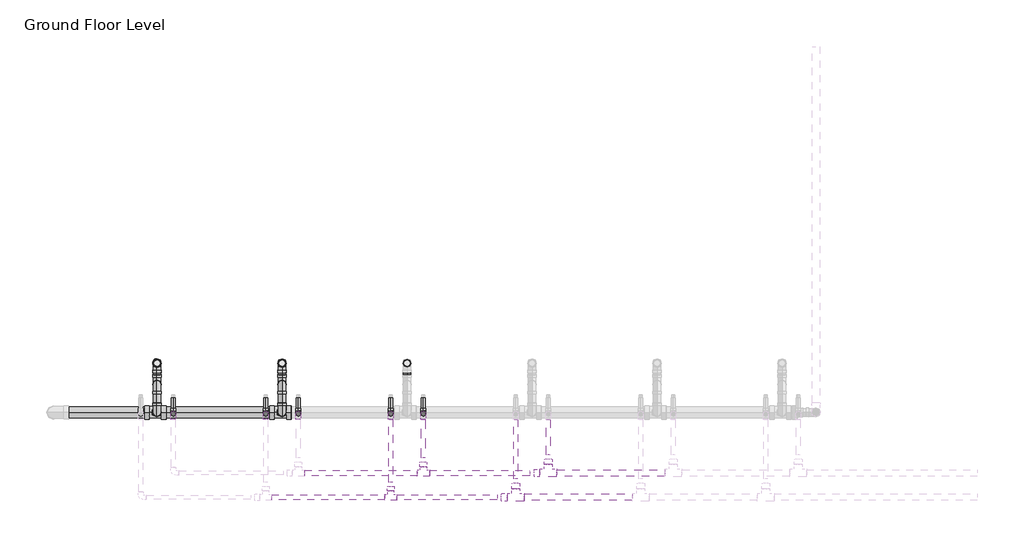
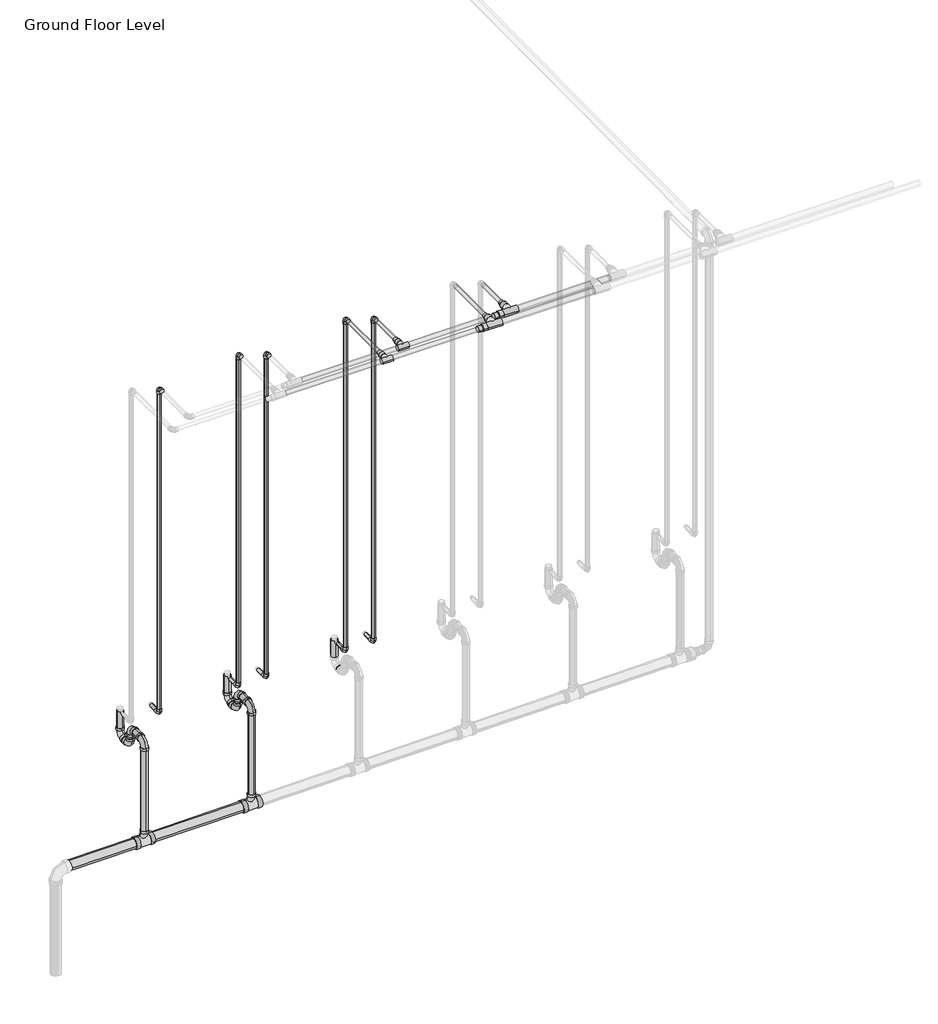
# One storey, part 39 of 68: 34 pipe segments, 30 pipe fittings.
"""IFC4 building model written with IfcOpenShell, lengths in millimetres."""

from ifc_helpers import new_model, si_unit, point, frame, frame_2d, origin, place, context, project, spatial, circle_curve, trimmed, segment, composite_curve, outline, extrude, transform, mapped, element, save
from components import m_bend_pvc_sch_40_dwv_standard_1e7bdcc1, m_bend_pvc_sch_40_dwv_standard_776e50c4, m_bend_pvc_sch_40_dwv_standard_a69ec96e, m_tee_reducing_sanitary_pvc_sch_40_dwv_standard_21d2848c, standard_b266ab3f, standard_72b35c3b, standard_08ff6011, standard_d0d0b892, standard_83629b21, standard_e954f56a

model = new_model("IFC4")

# Units and contexts
model_context = context("Model", 3, world=origin())
ifc_project = project(units=[si_unit("LENGTHUNIT", "METRE", prefix="MILLI")], contexts=[model_context])

# Site, building, storey
site = spatial("IfcSite", under=ifc_project)
building = spatial("IfcBuilding", under=site)
storey = spatial("IfcBuildingStorey", under=building, Name="Ground Floor Level", Elevation=900.0)

# Pipe fittings
placement = place(None, origin())
m_bend_pvc_sch_40_dwv_standard_shape = m_bend_pvc_sch_40_dwv_standard_1e7bdcc1(model_context)
element("IfcPipeFitting", 1, ObjectType="M_Bend - PVC - Sch 40 - DWV : Standard", at=placement, inside=storey, context=model_context, shape_type="MappedRepresentation", body=[
    mapped(m_bend_pvc_sch_40_dwv_standard_shape, transform((-20261.2502, 9458.7835646, 1360.0), x_axis=(0.0, 0.9999500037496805, 0.009999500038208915), y_axis=(0.0, -0.009999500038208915, 0.9999500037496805), z_axis=(1.0, 0.0, 0.0))),
])
element("IfcPipeFitting", 2, ObjectType="M_Bend - PVC - Sch 40 - DWV : Standard", at=placement, inside=storey, context=model_context, shape_type="MappedRepresentation", body=[
    mapped(m_bend_pvc_sch_40_dwv_standard_shape, transform((-20261.2502, 9143.7835646, 1498.2), x_axis=(0.0, -0.9999500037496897, -0.00999950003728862), y_axis=(0.0, 0.00999950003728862, -0.9999500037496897), z_axis=(1.0, 0.0, 0.0))),
])
element("IfcPipeFitting", 3, ObjectType="M_Bend - PVC - Sch 40 - DWV : Standard", at=placement, inside=storey, context=model_context, shape_type="MappedRepresentation", body=[
    mapped(m_bend_pvc_sch_40_dwv_standard_shape, transform((-21061.7062458, 9143.7835645, 1498.2000033), x_axis=(0.0, -0.9999500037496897, -0.00999950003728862), y_axis=(0.0, 0.00999950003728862, -0.9999500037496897), z_axis=(1.0, 0.0, 0.0))),
])
m_bend_pvc_sch_40_dwv_standard_2_shape = m_bend_pvc_sch_40_dwv_standard_776e50c4(model_context)
element("IfcPipeFitting", 4, ObjectType="M_Bend - PVC - Sch 40 - DWV : Standard", at=placement, inside=storey, context=model_context, shape_type="MappedRepresentation", body=[
    mapped(m_bend_pvc_sch_40_dwv_standard_2_shape, transform((-20261.2502, 9323.7835646, 1358.65), x_axis=(0.0, -0.9999500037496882, -0.009999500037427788), y_axis=(0.0, -0.009999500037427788, 0.9999500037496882), z_axis=(-1.0, 0.0, 0.0))),
])
element("IfcPipeFitting", 5, ObjectType="M_Bend - PVC - Sch 40 - DWV : Standard", at=placement, inside=storey, context=model_context, shape_type="MappedRepresentation", body=[
    mapped(m_bend_pvc_sch_40_dwv_standard_2_shape, transform((-20261.2502, 9323.7835646, 1500.0), x_axis=(0.0, 0.0, 1.0), y_axis=(0.0, -1.0, 0.0), z_axis=(1.0, 0.0, 0.0))),
])
element("IfcPipeFitting", 6, ObjectType="M_Bend - PVC - Sch 40 - DWV : Standard", at=placement, inside=storey, context=model_context, shape_type="MappedRepresentation", body=[
    mapped(m_bend_pvc_sch_40_dwv_standard_2_shape, transform((-21061.7062458, 9323.7832388, 1358.6825726), x_axis=(0.0, -0.9999500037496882, -0.009999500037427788), y_axis=(0.0, -0.009999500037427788, 0.9999500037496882), z_axis=(-1.0, 0.0, 0.0))),
])
element("IfcPipeFitting", 7, ObjectType="M_Bend - PVC - Sch 40 - DWV : Standard", at=placement, inside=storey, context=model_context, shape_type="MappedRepresentation", body=[
    mapped(m_bend_pvc_sch_40_dwv_standard_2_shape, transform((-21061.7062458, 9323.7832388, 1500.0), x_axis=(0.0, 0.0, 1.0), y_axis=(0.0, -1.0, 0.0), z_axis=(1.0, 0.0, 0.0))),
])
m_bend_pvc_sch_40_dwv_standard_3_shape = m_bend_pvc_sch_40_dwv_standard_a69ec96e(model_context)
element("IfcPipeFitting", 8, ObjectType="M_Bend - PVC - Sch 40 - DWV : Standard", at=placement, inside=storey, context=model_context, shape_type="MappedRepresentation", body=[
    mapped(m_bend_pvc_sch_40_dwv_standard_3_shape, transform((-21061.7062458, 9458.7835646, 1360.0325758), x_axis=(0.0, 0.999950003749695, 0.009999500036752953), y_axis=(0.007367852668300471, -0.009999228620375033, 0.999922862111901), z_axis=(0.999972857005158, 7.36748430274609e-05, -0.007367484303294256))),
])
m_tee_reducing_sanitary_pvc_sch_40_dwv_standard_shape = m_tee_reducing_sanitary_pvc_sch_40_dwv_standard_21d2848c(model_context)
element("IfcPipeFitting", 9, ObjectType="M_Tee Reducing Sanitary - PVC - Sch 40 - DWV : Standard", at=placement, inside=storey, context=model_context, shape_type="MappedRepresentation", body=[
    mapped(m_tee_reducing_sanitary_pvc_sch_40_dwv_standard_shape, transform((-20261.2502, 9143.7835646, 727.2441999), x_axis=(0.9999500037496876, 0.0, 0.009999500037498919), y_axis=(0.009999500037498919, 0.0, -0.9999500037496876), z_axis=(0.0, 1.0, 0.0))),
])
element("IfcPipeFitting", 10, ObjectType="M_Tee Reducing Sanitary - PVC - Sch 40 - DWV : Standard", at=placement, inside=storey, context=model_context, shape_type="MappedRepresentation", body=[
    mapped(m_tee_reducing_sanitary_pvc_sch_40_dwv_standard_shape, transform((-21061.7062458, 9143.7835645, 719.2500298), x_axis=(0.9999500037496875, 0.0, 0.009999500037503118), y_axis=(0.009999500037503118, 0.0, -0.9999500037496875), z_axis=(0.0, 1.0, 0.0))),
])
standard_shape = standard_b266ab3f(model_context)
element("IfcPipeFitting", 11, ObjectType="M_Elbow - CPVC - Sch 40 : Standard", at=placement, inside=storey, context=model_context, shape_type="MappedRepresentation", body=[
    mapped(standard_shape, transform((-20956.9352794, 9135.2153534, 1690.0), x_axis=(0.0, -1.0, 0.0), y_axis=(0.0, 0.0, 1.0), z_axis=(-1.0, 0.0, 0.0))),
])
element("IfcPipeFitting", 12, ObjectType="M_Elbow - CPVC - Sch 40 : Standard", at=placement, inside=storey, context=model_context, shape_type="MappedRepresentation", body=[
    mapped(standard_shape, transform((-20956.9352794, 9135.2153534, 4250.0), x_axis=(0.0, 0.0, 1.0), y_axis=(0.0, -1.0, 0.0), z_axis=(1.0, 0.0, 0.0))),
])
element("IfcPipeFitting", 13, ObjectType="M_Elbow - CPVC - Sch 40 : Standard", at=placement, inside=storey, context=model_context, shape_type="MappedRepresentation", body=[
    mapped(standard_shape, transform((-20156.9352794, 9135.2153534, 4250.0), x_axis=(0.0, 0.0, 1.0), y_axis=(0.0, -1.0, 0.0), z_axis=(1.0, 0.0, 0.0))),
])
element("IfcPipeFitting", 14, ObjectType="M_Elbow - CPVC - Sch 40 : Standard", at=placement, inside=storey, context=model_context, shape_type="MappedRepresentation", body=[
    mapped(standard_shape, transform((-19356.9352794, 9135.2153534, 4250.0), x_axis=(0.0, 0.0, 1.0), y_axis=(0.0, -1.0, 0.0), z_axis=(1.0, 0.0, 0.0))),
])
element("IfcPipeFitting", 15, ObjectType="M_Elbow - CPVC - Sch 40 : Standard", at=placement, inside=storey, context=model_context, shape_type="MappedRepresentation", body=[
    mapped(standard_shape, transform((-20365.5651206, 9135.2153534, 1690.0), x_axis=(0.0, 0.0, -1.0), y_axis=(0.0, 1.0, 0.0), z_axis=(1.0, 0.0, 0.0))),
])
element("IfcPipeFitting", 16, ObjectType="M_Elbow - CPVC - Sch 40 : Standard", at=placement, inside=storey, context=model_context, shape_type="MappedRepresentation", body=[
    mapped(standard_shape, transform((-20156.9352794, 9135.2153534, 1690.0), x_axis=(0.0, 0.0, -1.0), y_axis=(0.0, 1.0, 0.0), z_axis=(1.0, 0.0, 0.0))),
])
element("IfcPipeFitting", 17, ObjectType="M_Elbow - CPVC - Sch 40 : Standard", at=placement, inside=storey, context=model_context, shape_type="MappedRepresentation", body=[
    mapped(standard_shape, transform((-19565.5651206, 9135.2153534, 1690.0), x_axis=(0.0, 0.0, -1.0), y_axis=(0.0, 1.0, 0.0), z_axis=(1.0, 0.0, 0.0))),
])
element("IfcPipeFitting", 18, ObjectType="M_Elbow - CPVC - Sch 40 : Standard", at=placement, inside=storey, context=model_context, shape_type="MappedRepresentation", body=[
    mapped(standard_shape, transform((-19356.9352794, 9135.2153534, 1690.0), x_axis=(0.0, 0.0, -1.0), y_axis=(0.0, 1.0, 0.0), z_axis=(1.0, 0.0, 0.0))),
])
element("IfcPipeFitting", 19, ObjectType="M_Elbow - CPVC - Sch 40 : Standard", at=placement, inside=storey, context=model_context, shape_type="MappedRepresentation", body=[
    mapped(standard_shape, transform((-19565.5651206, 9135.2153534, 4315.0), x_axis=(0.0, 0.0, 1.0), y_axis=(0.0, -1.0, 0.0), z_axis=(1.0, 0.0, 0.0))),
])
element("IfcPipeFitting", 20, ObjectType="M_Elbow - CPVC - Sch 40 : Standard", at=placement, inside=storey, context=model_context, shape_type="MappedRepresentation", body=[
    mapped(standard_shape, transform((-20365.5651206, 9135.2153534, 4315.0), x_axis=(0.0, 0.0, 1.0), y_axis=(0.0, -1.0, 0.0), z_axis=(1.0, 0.0, 0.0))),
])
standard_2_shape = standard_72b35c3b(model_context)
element("IfcPipeFitting", 21, ObjectType="M_Tee - CPVC - Sch 40 : Standard", at=placement, inside=storey, context=model_context, shape_type="MappedRepresentation", body=[
    mapped(standard_2_shape, transform((-19565.5651206, 8599.9071734, 4315.0), x_axis=(1.0, 0.0, 0.0), y_axis=(0.0, -1.0, 0.0), z_axis=(0.0, 0.0, -1.0))),
])
element("IfcPipeFitting", 22, ObjectType="M_Tee - CPVC - Sch 40 : Standard", at=placement, inside=storey, context=model_context, shape_type="MappedRepresentation", body=[
    mapped(standard_2_shape, transform((-19356.9352794, 8755.2153534, 4250.0), x_axis=(-1.0, 0.0, 0.0), y_axis=(0.0, -1.0, 0.0), z_axis=(0.0, 0.0, 1.0))),
])
standard_3_shape = standard_08ff6011(model_context)
element("IfcPipeFitting", 23, ObjectType="M_Tee - CPVC - Sch 40 : Standard", at=placement, inside=storey, context=model_context, shape_type="MappedRepresentation", body=[
    mapped(standard_3_shape, transform((-18765.4222086, 8599.9071734, 4315.0), x_axis=(1.0, 0.0, 0.0), y_axis=(0.0, -1.0, 0.0), z_axis=(0.0, 0.0, -1.0))),
])
element("IfcPipeFitting", 24, ObjectType="M_Tee - CPVC - Sch 40 : Standard", at=placement, inside=storey, context=model_context, shape_type="MappedRepresentation", body=[
    mapped(standard_3_shape, transform((-18556.7923674, 8755.2153534, 4250.0), x_axis=(-1.0, 0.0, 0.0), y_axis=(0.0, -1.0, 0.0), z_axis=(0.0, 0.0, 1.0))),
])
standard_4_shape = standard_d0d0b892(model_context)
element("IfcPipeFitting", 25, ObjectType="M_Coupling Reducing - CPVC - Sch 40 : Standard", at=placement, inside=storey, context=model_context, shape_type="MappedRepresentation", body=[
    mapped(standard_4_shape, transform((-18819.3972086, 8599.9071734, 4315.0), x_axis=(-1.0, 0.0, 0.0), y_axis=(0.0, -1.0, 0.0), z_axis=(0.0, 0.0, 1.0))),
])
element("IfcPipeFitting", 26, ObjectType="M_Coupling Reducing - CPVC - Sch 40 : Standard", at=placement, inside=storey, context=model_context, shape_type="MappedRepresentation", body=[
    mapped(standard_4_shape, transform((-18610.7673674, 8755.2153534, 4250.0), x_axis=(-1.0, 0.0, 0.0), y_axis=(0.0, -1.0, 0.0), z_axis=(0.0, 0.0, 1.0))),
])
standard_5_shape = standard_83629b21(model_context)
element("IfcPipeFitting", 27, ObjectType="M_Coupling Reducing - CPVC - Sch 40 : Standard", at=placement, inside=storey, context=model_context, shape_type="MappedRepresentation", body=[
    mapped(standard_5_shape, transform((-18765.4222086, 8653.8821734, 4315.0), x_axis=(0.0, 1.0, 0.0), y_axis=(-1.0, 0.0, 0.0), z_axis=(0.0, 0.0, 1.0))),
])
element("IfcPipeFitting", 28, ObjectType="M_Coupling Reducing - CPVC - Sch 40 : Standard", at=placement, inside=storey, context=model_context, shape_type="MappedRepresentation", body=[
    mapped(standard_5_shape, transform((-18556.7923674, 8809.1903534, 4250.0), x_axis=(0.0, 1.0, 0.0), y_axis=(-1.0, 0.0, 0.0), z_axis=(0.0, 0.0, 1.0))),
])
standard_6_shape = standard_e954f56a(model_context)
element("IfcPipeFitting", 29, ObjectType="M_Coupling Reducing - CPVC - Sch 40 : Standard", at=placement, inside=storey, context=model_context, shape_type="MappedRepresentation", body=[
    mapped(standard_6_shape, transform((-19565.5651206, 8639.6073734, 4315.0), x_axis=(0.0, 1.0, 0.0), y_axis=(-1.0, 0.0, 0.0), z_axis=(0.0, 0.0, 1.0))),
])
element("IfcPipeFitting", 30, ObjectType="M_Coupling Reducing - CPVC - Sch 40 : Standard", at=placement, inside=storey, context=model_context, shape_type="MappedRepresentation", body=[
    mapped(standard_6_shape, transform((-19356.9352794, 8794.9155534, 4250.0), x_axis=(0.0, 1.0, 0.0), y_axis=(-1.0, 0.0, 0.0), z_axis=(0.0, 0.0, 1.0))),
])

# Pipe segments
element("IfcPipeSegment", 31, ObjectType="CPVC", at=placement, inside=storey, context=model_context, shape_type="SweptSolid", body=[
    extrude(outline(composite_curve([segment(trimmed(circle_curve(frame_2d((1690.0, -20956.9352794)), 13.335), [point((1690.0, -20970.2702794))], [point((1676.665, -20956.9352794))], False, "CARTESIAN"), True, "CONTINUOUS"), segment(trimmed(circle_curve(frame_2d((1690.0, -20956.9352794)), 13.335), [point((1676.665, -20956.9352794))], [point((1690.0, -20943.6002794))], False, "CARTESIAN"), True, "CONTINUOUS"), segment(trimmed(circle_curve(frame_2d((1690.0, -20956.9352794)), 13.335), [point((1690.0, -20943.6002794))], [point((1703.335, -20956.9352794))], False, "CARTESIAN"), True, "CONTINUOUS"), segment(trimmed(circle_curve(frame_2d((1690.0, -20956.9352794)), 13.335), [point((1703.335, -20956.9352794))], [point((1690.0, -20970.2702794))], False, "CARTESIAN"), True, "CONTINUOUS")], self_intersect=False)), frame((0.0, 9170.5404034, 0.0), z_axis=(0.0, 1.0, 0.0), x_axis=(0.0, 0.0, 1.0)), (0.0, 0.0, 1.0), 64.67495),
])
element("IfcPipeSegment", 32, ObjectType="CPVC", at=placement, inside=storey, context=model_context, shape_type="SweptSolid", body=[
    extrude(outline(composite_curve([segment(trimmed(circle_curve(frame_2d((-20956.9352794, 9135.2153534)), 13.335), [point((-20970.2702794, 9135.2153534))], [point((-20956.9352794, 9148.5503534))], False, "CARTESIAN"), True, "CONTINUOUS"), segment(trimmed(circle_curve(frame_2d((-20956.9352794, 9135.2153534)), 13.335), [point((-20956.9352794, 9148.5503534))], [point((-20943.6002794, 9135.2153534))], False, "CARTESIAN"), True, "CONTINUOUS"), segment(trimmed(circle_curve(frame_2d((-20956.9352794, 9135.2153534)), 13.335), [point((-20943.6002794, 9135.2153534))], [point((-20956.9352794, 9121.8803534))], False, "CARTESIAN"), True, "CONTINUOUS"), segment(trimmed(circle_curve(frame_2d((-20956.9352794, 9135.2153534)), 13.335), [point((-20956.9352794, 9121.8803534))], [point((-20970.2702794, 9135.2153534))], False, "CARTESIAN"), True, "CONTINUOUS")], self_intersect=False)), frame((0.0, 0.0, 1725.32505), z_axis=(0.0, 0.0, 1.0), x_axis=(1.0, 0.0, 0.0)), (0.0, 0.0, 1.0), 2489.3499),
])
element("IfcPipeSegment", 33, ObjectType="CPVC", at=placement, inside=storey, context=model_context, shape_type="SweptSolid", body=[
    extrude(outline(composite_curve([segment(trimmed(circle_curve(frame_2d((0.0, 13.335)), 13.335), [point((0.0, 26.67))], [point((13.335, 13.335))], False, "CARTESIAN"), True, "CONTINUOUS"), segment(trimmed(circle_curve(frame_2d((0.0, 13.335)), 13.335), [point((13.335, 13.335))], [point((0.0, 0.0))], False, "CARTESIAN"), True, "CONTINUOUS"), segment(trimmed(circle_curve(frame_2d((0.0, 13.335)), 13.335), [point((0.0, 0.0))], [point((-13.335, 13.335))], False, "CARTESIAN"), True, "CONTINUOUS"), segment(trimmed(circle_curve(frame_2d((0.0, 13.335)), 13.335), [point((-13.335, 13.335))], [point((0.0, 26.67))], False, "CARTESIAN"), True, "CONTINUOUS")], self_intersect=False)), frame((-20378.9001206, 9170.5404034, 1690.0), z_axis=(-6.212173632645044e-12, 1.0, 0.0), x_axis=(0.0, 0.0, 1.0)), (0.0, 0.0, 1.0), 64.67495),
])
element("IfcPipeSegment", 34, ObjectType="CPVC", at=placement, inside=storey, context=model_context, shape_type="SweptSolid", body=[
    extrude(outline(composite_curve([segment(trimmed(circle_curve(frame_2d((-20365.5651206, 9135.2153534)), 13.335), [point((-20378.9001206, 9135.2153534))], [point((-20365.5651206, 9148.5503534))], False, "CARTESIAN"), True, "CONTINUOUS"), segment(trimmed(circle_curve(frame_2d((-20365.5651206, 9135.2153534)), 13.335), [point((-20365.5651206, 9148.5503534))], [point((-20352.2301206, 9135.2153534))], False, "CARTESIAN"), True, "CONTINUOUS"), segment(trimmed(circle_curve(frame_2d((-20365.5651206, 9135.2153534)), 13.335), [point((-20352.2301206, 9135.2153534))], [point((-20365.5651206, 9121.8803534))], False, "CARTESIAN"), True, "CONTINUOUS"), segment(trimmed(circle_curve(frame_2d((-20365.5651206, 9135.2153534)), 13.335), [point((-20365.5651206, 9121.8803534))], [point((-20378.9001206, 9135.2153534))], False, "CARTESIAN"), True, "CONTINUOUS")], self_intersect=False)), frame((0.0, 0.0, 1725.32505), z_axis=(0.0, 0.0, 1.0), x_axis=(1.0, 0.0, 0.0)), (0.0, 0.0, 1.0), 2554.3499),
])
element("IfcPipeSegment", 35, ObjectType="CPVC", at=placement, inside=storey, context=model_context, shape_type="SweptSolid", body=[
    extrude(outline(composite_curve([segment(trimmed(circle_curve(frame_2d((0.0, 13.335)), 13.335), [point((0.0, 26.67))], [point((13.335, 13.335))], False, "CARTESIAN"), True, "CONTINUOUS"), segment(trimmed(circle_curve(frame_2d((0.0, 13.335)), 13.335), [point((13.335, 13.335))], [point((0.0, 0.0))], False, "CARTESIAN"), True, "CONTINUOUS"), segment(trimmed(circle_curve(frame_2d((0.0, 13.335)), 13.335), [point((0.0, 0.0))], [point((-13.335, 13.335))], False, "CARTESIAN"), True, "CONTINUOUS"), segment(trimmed(circle_curve(frame_2d((0.0, 13.335)), 13.335), [point((-13.335, 13.335))], [point((0.0, 26.67))], False, "CARTESIAN"), True, "CONTINUOUS")], self_intersect=False)), frame((-20170.2702794, 9170.5404034, 1690.0), z_axis=(-6.212173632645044e-12, 1.0, 0.0), x_axis=(0.0, 0.0, 1.0)), (0.0, 0.0, 1.0), 64.67495),
])
element("IfcPipeSegment", 36, ObjectType="CPVC", at=placement, inside=storey, context=model_context, shape_type="SweptSolid", body=[
    extrude(outline(composite_curve([segment(trimmed(circle_curve(frame_2d((-20156.9352794, 9135.2153534)), 13.335), [point((-20170.2702794, 9135.2153534))], [point((-20156.9352794, 9148.5503534))], False, "CARTESIAN"), True, "CONTINUOUS"), segment(trimmed(circle_curve(frame_2d((-20156.9352794, 9135.2153534)), 13.335), [point((-20156.9352794, 9148.5503534))], [point((-20143.6002794, 9135.2153534))], False, "CARTESIAN"), True, "CONTINUOUS"), segment(trimmed(circle_curve(frame_2d((-20156.9352794, 9135.2153534)), 13.335), [point((-20143.6002794, 9135.2153534))], [point((-20156.9352794, 9121.8803534))], False, "CARTESIAN"), True, "CONTINUOUS"), segment(trimmed(circle_curve(frame_2d((-20156.9352794, 9135.2153534)), 13.335), [point((-20156.9352794, 9121.8803534))], [point((-20170.2702794, 9135.2153534))], False, "CARTESIAN"), True, "CONTINUOUS")], self_intersect=False)), frame((0.0, 0.0, 1725.32505), z_axis=(0.0, 0.0, 1.0), x_axis=(1.0, 0.0, 0.0)), (0.0, 0.0, 1.0), 2489.3499),
])
element("IfcPipeSegment", 37, ObjectType="CPVC", at=placement, inside=storey, context=model_context, shape_type="SweptSolid", body=[
    extrude(outline(composite_curve([segment(trimmed(circle_curve(frame_2d((0.0, 13.335)), 13.335), [point((0.0, 26.67))], [point((13.335, 13.335))], False, "CARTESIAN"), True, "CONTINUOUS"), segment(trimmed(circle_curve(frame_2d((0.0, 13.335)), 13.335), [point((13.335, 13.335))], [point((0.0, 0.0))], False, "CARTESIAN"), True, "CONTINUOUS"), segment(trimmed(circle_curve(frame_2d((0.0, 13.335)), 13.335), [point((0.0, 0.0))], [point((-13.335, 13.335))], False, "CARTESIAN"), True, "CONTINUOUS"), segment(trimmed(circle_curve(frame_2d((0.0, 13.335)), 13.335), [point((-13.335, 13.335))], [point((0.0, 26.67))], False, "CARTESIAN"), True, "CONTINUOUS")], self_intersect=False)), frame((-19578.9001206, 9170.5404034, 1690.0), z_axis=(-1.3601818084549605e-11, 1.0, 0.0), x_axis=(0.0, 0.0, 1.0)), (0.0, 0.0, 1.0), 64.67495),
])
element("IfcPipeSegment", 38, ObjectType="CPVC", at=placement, inside=storey, context=model_context, shape_type="SweptSolid", body=[
    extrude(outline(composite_curve([segment(trimmed(circle_curve(frame_2d((4315.0, -19565.5651206)), 13.335), [point((4315.0, -19578.9001206))], [point((4301.665, -19565.5651206))], False, "CARTESIAN"), True, "CONTINUOUS"), segment(trimmed(circle_curve(frame_2d((4315.0, -19565.5651206)), 13.335), [point((4301.665, -19565.5651206))], [point((4315.0, -19552.2301206))], False, "CARTESIAN"), True, "CONTINUOUS"), segment(trimmed(circle_curve(frame_2d((4315.0, -19565.5651206)), 13.335), [point((4315.0, -19552.2301206))], [point((4328.335, -19565.5651206))], False, "CARTESIAN"), True, "CONTINUOUS"), segment(trimmed(circle_curve(frame_2d((4315.0, -19565.5651206)), 13.335), [point((4328.335, -19565.5651206))], [point((4315.0, -19578.9001206))], False, "CARTESIAN"), True, "CONTINUOUS")], self_intersect=False)), frame((0.0, 8696.7573734, 0.0), z_axis=(0.0, 1.0, 0.0), x_axis=(0.0, 0.0, 1.0)), (0.0, 0.0, 1.0), 403.13293),
])
element("IfcPipeSegment", 39, ObjectType="CPVC", at=placement, inside=storey, context=model_context, shape_type="SweptSolid", body=[
    extrude(outline(composite_curve([segment(trimmed(circle_curve(frame_2d((-19565.5651206, 9135.2153534)), 13.335), [point((-19578.9001206, 9135.2153534))], [point((-19565.5651206, 9148.5503534))], False, "CARTESIAN"), True, "CONTINUOUS"), segment(trimmed(circle_curve(frame_2d((-19565.5651206, 9135.2153534)), 13.335), [point((-19565.5651206, 9148.5503534))], [point((-19552.2301206, 9135.2153534))], False, "CARTESIAN"), True, "CONTINUOUS"), segment(trimmed(circle_curve(frame_2d((-19565.5651206, 9135.2153534)), 13.335), [point((-19552.2301206, 9135.2153534))], [point((-19565.5651206, 9121.8803534))], False, "CARTESIAN"), True, "CONTINUOUS"), segment(trimmed(circle_curve(frame_2d((-19565.5651206, 9135.2153534)), 13.335), [point((-19565.5651206, 9121.8803534))], [point((-19578.9001206, 9135.2153534))], False, "CARTESIAN"), True, "CONTINUOUS")], self_intersect=False)), frame((0.0, 0.0, 1725.32505), z_axis=(0.0, 0.0, 1.0), x_axis=(1.0, 0.0, 0.0)), (0.0, 0.0, 1.0), 2554.3499),
])
element("IfcPipeSegment", 40, ObjectType="CPVC", at=placement, inside=storey, context=model_context, shape_type="SweptSolid", body=[
    extrude(outline(composite_curve([segment(trimmed(circle_curve(frame_2d((0.0, 13.335)), 13.335), [point((0.0, 26.67))], [point((13.335, 13.335))], False, "CARTESIAN"), True, "CONTINUOUS"), segment(trimmed(circle_curve(frame_2d((0.0, 13.335)), 13.335), [point((13.335, 13.335))], [point((0.0, 0.0))], False, "CARTESIAN"), True, "CONTINUOUS"), segment(trimmed(circle_curve(frame_2d((0.0, 13.335)), 13.335), [point((0.0, 0.0))], [point((-13.335, 13.335))], False, "CARTESIAN"), True, "CONTINUOUS"), segment(trimmed(circle_curve(frame_2d((0.0, 13.335)), 13.335), [point((-13.335, 13.335))], [point((0.0, 26.67))], False, "CARTESIAN"), True, "CONTINUOUS")], self_intersect=False)), frame((-19370.2702794, 9170.5404034, 1690.0), z_axis=(-1.3642420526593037e-11, 1.0, 0.0), x_axis=(0.0, 0.0, 1.0)), (0.0, 0.0, 1.0), 64.67495),
])
element("IfcPipeSegment", 41, ObjectType="CPVC", at=placement, inside=storey, context=model_context, shape_type="SweptSolid", body=[
    extrude(outline(composite_curve([segment(trimmed(circle_curve(frame_2d((4250.0, -19356.9352794)), 13.335), [point((4250.0, -19370.2702794))], [point((4236.665, -19356.9352794))], False, "CARTESIAN"), True, "CONTINUOUS"), segment(trimmed(circle_curve(frame_2d((4250.0, -19356.9352794)), 13.335), [point((4236.665, -19356.9352794))], [point((4250.0, -19343.6002794))], False, "CARTESIAN"), True, "CONTINUOUS"), segment(trimmed(circle_curve(frame_2d((4250.0, -19356.9352794)), 13.335), [point((4250.0, -19343.6002794))], [point((4263.335, -19356.9352794))], False, "CARTESIAN"), True, "CONTINUOUS"), segment(trimmed(circle_curve(frame_2d((4250.0, -19356.9352794)), 13.335), [point((4263.335, -19356.9352794))], [point((4250.0, -19370.2702794))], False, "CARTESIAN"), True, "CONTINUOUS")], self_intersect=False)), frame((0.0, 8852.0655534, 0.0), z_axis=(0.0, 1.0, 0.0), x_axis=(0.0, 0.0, 1.0)), (0.0, 0.0, 1.0), 247.82475),
])
element("IfcPipeSegment", 42, ObjectType="CPVC", at=placement, inside=storey, context=model_context, shape_type="SweptSolid", body=[
    extrude(outline(composite_curve([segment(trimmed(circle_curve(frame_2d((-19356.9352794, 9135.2153534)), 13.335), [point((-19370.2702794, 9135.2153534))], [point((-19356.9352794, 9148.5503534))], False, "CARTESIAN"), True, "CONTINUOUS"), segment(trimmed(circle_curve(frame_2d((-19356.9352794, 9135.2153534)), 13.335), [point((-19356.9352794, 9148.5503534))], [point((-19343.6002794, 9135.2153534))], False, "CARTESIAN"), True, "CONTINUOUS"), segment(trimmed(circle_curve(frame_2d((-19356.9352794, 9135.2153534)), 13.335), [point((-19343.6002794, 9135.2153534))], [point((-19356.9352794, 9121.8803534))], False, "CARTESIAN"), True, "CONTINUOUS"), segment(trimmed(circle_curve(frame_2d((-19356.9352794, 9135.2153534)), 13.335), [point((-19356.9352794, 9121.8803534))], [point((-19370.2702794, 9135.2153534))], False, "CARTESIAN"), True, "CONTINUOUS")], self_intersect=False)), frame((0.0, 0.0, 1725.32505), z_axis=(0.0, 0.0, 1.0), x_axis=(1.0, 0.0, 0.0)), (0.0, 0.0, 1.0), 2489.3499),
])
element("IfcPipeSegment", 43, ObjectType="CPVC", at=placement, inside=storey, context=model_context, shape_type="SweptSolid", body=[
    extrude(outline(composite_curve([segment(trimmed(circle_curve(frame_2d((4315.0, -18765.4222086)), 13.335), [point((4315.0, -18778.7572086))], [point((4301.665, -18765.4222086))], False, "CARTESIAN"), True, "CONTINUOUS"), segment(trimmed(circle_curve(frame_2d((4315.0, -18765.4222086)), 13.335), [point((4301.665, -18765.4222086))], [point((4315.0, -18752.0872086))], False, "CARTESIAN"), True, "CONTINUOUS"), segment(trimmed(circle_curve(frame_2d((4315.0, -18765.4222086)), 13.335), [point((4315.0, -18752.0872086))], [point((4328.335, -18765.4222086))], False, "CARTESIAN"), True, "CONTINUOUS"), segment(trimmed(circle_curve(frame_2d((4315.0, -18765.4222086)), 13.335), [point((4328.335, -18765.4222086))], [point((4315.0, -18778.7572086))], False, "CARTESIAN"), True, "CONTINUOUS")], self_intersect=False)), frame((0.0, 8716.6990484, 0.0), z_axis=(0.0, 1.0, 0.0), x_axis=(0.0, 0.0, 1.0)), (0.0, 0.0, 1.0), 383.191255),
])
element("IfcPipeSegment", 44, ObjectType="CPVC", at=placement, inside=storey, context=model_context, shape_type="SweptSolid", body=[
    extrude(outline(composite_curve([segment(trimmed(circle_curve(frame_2d((4250.0, -18556.7923674)), 13.335), [point((4250.0, -18570.1273674))], [point((4236.665, -18556.7923674))], False, "CARTESIAN"), True, "CONTINUOUS"), segment(trimmed(circle_curve(frame_2d((4250.0, -18556.7923674)), 13.335), [point((4236.665, -18556.7923674))], [point((4250.0, -18543.4573674))], False, "CARTESIAN"), True, "CONTINUOUS"), segment(trimmed(circle_curve(frame_2d((4250.0, -18556.7923674)), 13.335), [point((4250.0, -18543.4573674))], [point((4263.335, -18556.7923674))], False, "CARTESIAN"), True, "CONTINUOUS"), segment(trimmed(circle_curve(frame_2d((4250.0, -18556.7923674)), 13.335), [point((4263.335, -18556.7923674))], [point((4250.0, -18570.1273674))], False, "CARTESIAN"), True, "CONTINUOUS")], self_intersect=False)), frame((0.0, 8872.0072284, 0.0), z_axis=(0.0, 1.0, 0.0), x_axis=(0.0, 0.0, 1.0)), (0.0, 0.0, 1.0), 227.883075),
])
element("IfcPipeSegment", 45, ObjectType="CPVC", at=placement, inside=storey, context=model_context, shape_type="SweptSolid", body=[
    extrude(outline(composite_curve([segment(trimmed(circle_curve(frame_2d((8599.9071734, 4315.0)), 21.082), [point((8620.9891734, 4315.0))], [point((8599.9071734, 4293.918))], False, "CARTESIAN"), True, "CONTINUOUS"), segment(trimmed(circle_curve(frame_2d((8599.9071734, 4315.0)), 21.082), [point((8599.9071734, 4293.918))], [point((8578.8251734, 4315.0))], False, "CARTESIAN"), True, "CONTINUOUS"), segment(trimmed(circle_curve(frame_2d((8599.9071734, 4315.0)), 21.082), [point((8578.8251734, 4315.0))], [point((8599.9071734, 4336.082))], False, "CARTESIAN"), True, "CONTINUOUS"), segment(trimmed(circle_curve(frame_2d((8599.9071734, 4315.0)), 21.082), [point((8599.9071734, 4336.082))], [point((8620.9891734, 4315.0))], False, "CARTESIAN"), True, "CONTINUOUS")], self_intersect=False)), frame((-18711.4472086, 0.0, 0.0), z_axis=(1.0, 0.0, 0.0), x_axis=(0.0, 1.0, 0.0)), (0.0, 0.0, 1.0), 692.05),
])
element("IfcPipeSegment", 46, ObjectType="CPVC", at=placement, inside=storey, context=model_context, shape_type="SweptSolid", body=[
    extrude(outline(composite_curve([segment(trimmed(circle_curve(frame_2d((8599.9071734, 4315.0)), 16.7005), [point((8616.6076734, 4315.0))], [point((8599.9071734, 4298.2995))], False, "CARTESIAN"), True, "CONTINUOUS"), segment(trimmed(circle_curve(frame_2d((8599.9071734, 4315.0)), 16.7005), [point((8599.9071734, 4298.2995))], [point((8583.2066734, 4315.0))], False, "CARTESIAN"), True, "CONTINUOUS"), segment(trimmed(circle_curve(frame_2d((8599.9071734, 4315.0)), 16.7005), [point((8583.2066734, 4315.0))], [point((8599.9071734, 4331.7005))], False, "CARTESIAN"), True, "CONTINUOUS"), segment(trimmed(circle_curve(frame_2d((8599.9071734, 4315.0)), 16.7005), [point((8599.9071734, 4331.7005))], [point((8616.6076734, 4315.0))], False, "CARTESIAN"), True, "CONTINUOUS")], self_intersect=False)), frame((-19525.8649206, 0.0, 0.0), z_axis=(1.0, 0.0, 0.0), x_axis=(0.0, 1.0, 0.0)), (0.0, 0.0, 1.0), 640.3488369),
])
element("IfcPipeSegment", 47, ObjectType="CPVC", at=placement, inside=storey, context=model_context, shape_type="SweptSolid", body=[
    extrude(outline(composite_curve([segment(trimmed(circle_curve(frame_2d((8599.9071734, 4315.0)), 16.7005), [point((8616.6076734, 4315.0))], [point((8599.9071734, 4298.2995))], False, "CARTESIAN"), True, "CONTINUOUS"), segment(trimmed(circle_curve(frame_2d((8599.9071734, 4315.0)), 16.7005), [point((8599.9071734, 4298.2995))], [point((8583.2066734, 4315.0))], False, "CARTESIAN"), True, "CONTINUOUS"), segment(trimmed(circle_curve(frame_2d((8599.9071734, 4315.0)), 16.7005), [point((8583.2066734, 4315.0))], [point((8599.9071734, 4331.7005))], False, "CARTESIAN"), True, "CONTINUOUS"), segment(trimmed(circle_curve(frame_2d((8599.9071734, 4315.0)), 16.7005), [point((8599.9071734, 4331.7005))], [point((8616.6076734, 4315.0))], False, "CARTESIAN"), True, "CONTINUOUS")], self_intersect=False)), frame((-20325.8649206, 0.0, 0.0), z_axis=(1.0, 0.0, 0.0), x_axis=(0.0, 1.0, 0.0)), (0.0, 0.0, 1.0), 720.5996),
])
element("IfcPipeSegment", 48, ObjectType="CPVC", at=placement, inside=storey, context=model_context, shape_type="SweptSolid", body=[
    extrude(outline(composite_curve([segment(trimmed(circle_curve(frame_2d((8755.2153534, 4250.0)), 16.7005), [point((8738.5148534, 4250.0))], [point((8755.2153534, 4266.7005))], False, "CARTESIAN"), True, "CONTINUOUS"), segment(trimmed(circle_curve(frame_2d((8755.2153534, 4250.0)), 16.7005), [point((8755.2153534, 4266.7005))], [point((8771.9158534, 4250.0))], False, "CARTESIAN"), True, "CONTINUOUS"), segment(trimmed(circle_curve(frame_2d((8755.2153534, 4250.0)), 16.7005), [point((8771.9158534, 4250.0))], [point((8755.2153534, 4233.2995))], False, "CARTESIAN"), True, "CONTINUOUS"), segment(trimmed(circle_curve(frame_2d((8755.2153534, 4250.0)), 16.7005), [point((8755.2153534, 4233.2995))], [point((8738.5148534, 4250.0))], False, "CARTESIAN"), True, "CONTINUOUS")], self_intersect=False)), frame((-20117.2350794, 0.0, 0.0), z_axis=(1.0, 0.0, 0.0), x_axis=(0.0, 1.0, 0.0)), (0.0, 0.0, 1.0), 720.5996),
])
element("IfcPipeSegment", 49, ObjectType="CPVC", at=placement, inside=storey, context=model_context, shape_type="SweptSolid", body=[
    extrude(outline(composite_curve([segment(trimmed(circle_curve(frame_2d((8755.2153534, 4250.0)), 16.7005), [point((8738.5148534, 4250.0))], [point((8755.2153534, 4266.7005))], False, "CARTESIAN"), True, "CONTINUOUS"), segment(trimmed(circle_curve(frame_2d((8755.2153534, 4250.0)), 16.7005), [point((8755.2153534, 4266.7005))], [point((8771.9158534, 4250.0))], False, "CARTESIAN"), True, "CONTINUOUS"), segment(trimmed(circle_curve(frame_2d((8755.2153534, 4250.0)), 16.7005), [point((8771.9158534, 4250.0))], [point((8755.2153534, 4233.2995))], False, "CARTESIAN"), True, "CONTINUOUS"), segment(trimmed(circle_curve(frame_2d((8755.2153534, 4250.0)), 16.7005), [point((8755.2153534, 4233.2995))], [point((8738.5148534, 4250.0))], False, "CARTESIAN"), True, "CONTINUOUS")], self_intersect=False)), frame((-19317.2350794, 0.0, 0.0), z_axis=(1.0, 0.0, 0.0), x_axis=(0.0, 1.0, 0.0)), (0.0, 0.0, 1.0), 640.3488369),
])
element("IfcPipeSegment", 50, ObjectType="CPVC", at=placement, inside=storey, context=model_context, shape_type="SweptSolid", body=[
    extrude(outline(composite_curve([segment(trimmed(circle_curve(frame_2d((8755.2153534, 4250.0)), 21.082), [point((8734.1333534, 4250.0))], [point((8755.2153534, 4271.082))], False, "CARTESIAN"), True, "CONTINUOUS"), segment(trimmed(circle_curve(frame_2d((8755.2153534, 4250.0)), 21.082), [point((8755.2153534, 4271.082))], [point((8776.2973534, 4250.0))], False, "CARTESIAN"), True, "CONTINUOUS"), segment(trimmed(circle_curve(frame_2d((8755.2153534, 4250.0)), 21.082), [point((8776.2973534, 4250.0))], [point((8755.2153534, 4228.918))], False, "CARTESIAN"), True, "CONTINUOUS"), segment(trimmed(circle_curve(frame_2d((8755.2153534, 4250.0)), 21.082), [point((8755.2153534, 4228.918))], [point((8734.1333534, 4250.0))], False, "CARTESIAN"), True, "CONTINUOUS")], self_intersect=False)), frame((-18502.8173674, 0.0, 0.0), z_axis=(1.0, 0.0, 0.0), x_axis=(0.0, 1.0, 0.0)), (0.0, 0.0, 1.0), 692.05),
])
element("IfcPipeSegment", 51, ObjectType="PVC - DWV", at=placement, inside=storey, context=model_context, shape_type="SweptSolid", body=[
    extrude(outline(composite_curve([segment(trimmed(circle_curve(frame_2d((0.0, -36.5125)), 36.5125), [point((0.0, 0.0))], [point((36.5125, -36.5125))], False, "CARTESIAN"), True, "CONTINUOUS"), segment(trimmed(circle_curve(frame_2d((0.0, -36.5125)), 36.5125), [point((36.5125, -36.5125))], [point((0.0, -73.025))], False, "CARTESIAN"), True, "CONTINUOUS"), segment(trimmed(circle_curve(frame_2d((0.0, -36.5125)), 36.5125), [point((0.0, -73.025))], [point((-36.5125, -36.5125))], False, "CARTESIAN"), True, "CONTINUOUS"), segment(trimmed(circle_curve(frame_2d((0.0, -36.5125)), 36.5125), [point((-36.5125, -36.5125))], [point((0.0, 0.0))], False, "CARTESIAN"), True, "CONTINUOUS")], self_intersect=False)), frame((-21626.2630268, 9180.2960645, 713.604462), z_axis=(0.9999500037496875, 0.0, 0.009999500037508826), x_axis=(0.009999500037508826, 0.0, -0.9999500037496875)), (0.0, 0.0, 1.0), 485.5218894),
])
element("IfcPipeSegment", 52, ObjectType="PVC - DWV", at=placement, inside=storey, context=model_context, shape_type="SweptSolid", body=[
    extrude(outline(composite_curve([segment(trimmed(circle_curve(frame_2d((-19461.2502, 9458.7835646)), 24.13), [point((-19485.3802, 9458.7835646))], [point((-19461.2502, 9482.9135646))], False, "CARTESIAN"), True, "CONTINUOUS"), segment(trimmed(circle_curve(frame_2d((-19461.2502, 9458.7835646)), 24.13), [point((-19461.2502, 9482.9135646))], [point((-19437.1202, 9458.7835646))], False, "CARTESIAN"), True, "CONTINUOUS"), segment(trimmed(circle_curve(frame_2d((-19461.2502, 9458.7835646)), 24.13), [point((-19437.1202, 9458.7835646))], [point((-19461.2502, 9434.6535646))], False, "CARTESIAN"), True, "CONTINUOUS"), segment(trimmed(circle_curve(frame_2d((-19461.2502, 9458.7835646)), 24.13), [point((-19461.2502, 9434.6535646))], [point((-19485.3802, 9458.7835646))], False, "CARTESIAN"), True, "CONTINUOUS")], self_intersect=False)), frame((0.0, 0.0, 1421.8998), z_axis=(0.0, 0.0, 1.0), x_axis=(1.0, 0.0, 0.0)), (0.0, 0.0, 1.0), 128.1002),
])
element("IfcPipeSegment", 53, ObjectType="PVC - DWV", at=placement, inside=storey, context=model_context, shape_type="SweptSolid", body=[
    extrude(outline(composite_curve([segment(trimmed(circle_curve(frame_2d((0.0, -24.13)), 24.13), [point((-24.13, -24.13))], [point((0.0, 0.0))], False, "CARTESIAN"), True, "CONTINUOUS"), segment(trimmed(circle_curve(frame_2d((0.0, -24.13)), 24.13), [point((0.0, 0.0))], [point((24.13, -24.13))], False, "CARTESIAN"), True, "CONTINUOUS"), segment(trimmed(circle_curve(frame_2d((0.0, -24.13)), 24.13), [point((24.13, -24.13))], [point((0.0, -48.2599999))], False, "CARTESIAN"), True, "CONTINUOUS"), segment(trimmed(circle_curve(frame_2d((0.0, -24.13)), 24.13), [point((0.0, -48.2599999))], [point((-24.13, -24.13))], False, "CARTESIAN"), True, "CONTINUOUS")], self_intersect=False)), frame((-19461.2502, 9385.9215577, 1335.1401735), z_axis=(0.0, 0.9999500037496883, 0.009999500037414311), x_axis=(1.0, 0.0, 0.0)), (0.0, 0.0, 1.0), 11.2071498),
])
element("IfcPipeSegment", 54, ObjectType="PVC - DWV", at=placement, inside=storey, context=model_context, shape_type="SweptSolid", body=[
    extrude(outline(composite_curve([segment(trimmed(circle_curve(frame_2d((-20261.2502, 9458.7835646)), 24.13), [point((-20285.3802, 9458.7835646))], [point((-20261.2502, 9482.9135646))], False, "CARTESIAN"), True, "CONTINUOUS"), segment(trimmed(circle_curve(frame_2d((-20261.2502, 9458.7835646)), 24.13), [point((-20261.2502, 9482.9135646))], [point((-20237.1202, 9458.7835646))], False, "CARTESIAN"), True, "CONTINUOUS"), segment(trimmed(circle_curve(frame_2d((-20261.2502, 9458.7835646)), 24.13), [point((-20237.1202, 9458.7835646))], [point((-20261.2502, 9434.6535646))], False, "CARTESIAN"), True, "CONTINUOUS"), segment(trimmed(circle_curve(frame_2d((-20261.2502, 9458.7835646)), 24.13), [point((-20261.2502, 9434.6535646))], [point((-20285.3802, 9458.7835646))], False, "CARTESIAN"), True, "CONTINUOUS")], self_intersect=False)), frame((0.0, 0.0, 1421.8998), z_axis=(0.0, 0.0, 1.0), x_axis=(1.0, 0.0, 0.0)), (0.0, 0.0, 1.0), 128.1002),
])
element("IfcPipeSegment", 55, ObjectType="PVC - DWV", at=placement, inside=storey, context=model_context, shape_type="SweptSolid", body=[
    extrude(outline(composite_curve([segment(trimmed(circle_curve(frame_2d((0.0, -24.13)), 24.13), [point((-24.13, -24.13))], [point((0.0, 0.0))], False, "CARTESIAN"), True, "CONTINUOUS"), segment(trimmed(circle_curve(frame_2d((0.0, -24.13)), 24.13), [point((0.0, 0.0))], [point((24.13, -24.13))], False, "CARTESIAN"), True, "CONTINUOUS"), segment(trimmed(circle_curve(frame_2d((0.0, -24.13)), 24.13), [point((24.13, -24.13))], [point((0.0, -48.2599999))], False, "CARTESIAN"), True, "CONTINUOUS"), segment(trimmed(circle_curve(frame_2d((0.0, -24.13)), 24.13), [point((0.0, -48.2599999))], [point((-24.13, -24.13))], False, "CARTESIAN"), True, "CONTINUOUS")], self_intersect=False)), frame((-20261.2502, 9385.9215577, 1335.1401735), z_axis=(0.0, 0.9999500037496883, 0.009999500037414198), x_axis=(1.0, 0.0, 0.0)), (0.0, 0.0, 1.0), 11.2071498),
])
element("IfcPipeSegment", 56, ObjectType="PVC - DWV", at=placement, inside=storey, context=model_context, shape_type="SweptSolid", body=[
    extrude(outline(composite_curve([segment(trimmed(circle_curve(frame_2d((-20261.2502, 9323.7835646)), 24.13), [point((-20285.3802, 9323.7835646))], [point((-20261.2502, 9347.9135646))], False, "CARTESIAN"), True, "CONTINUOUS"), segment(trimmed(circle_curve(frame_2d((-20261.2502, 9323.7835646)), 24.13), [point((-20261.2502, 9347.9135646))], [point((-20237.1202, 9323.7835646))], False, "CARTESIAN"), True, "CONTINUOUS"), segment(trimmed(circle_curve(frame_2d((-20261.2502, 9323.7835646)), 24.13), [point((-20237.1202, 9323.7835646))], [point((-20261.2502, 9299.6535646))], False, "CARTESIAN"), True, "CONTINUOUS"), segment(trimmed(circle_curve(frame_2d((-20261.2502, 9323.7835646)), 24.13), [point((-20261.2502, 9299.6535646))], [point((-20285.3802, 9323.7835646))], False, "CARTESIAN"), True, "CONTINUOUS")], self_intersect=False)), frame((0.0, 0.0, 1420.5498), z_axis=(0.0, 0.0, 1.0), x_axis=(1.0, 0.0, 0.0)), (0.0, 0.0, 1.0), 17.5504),
])
element("IfcPipeSegment", 57, ObjectType="PVC - DWV", at=placement, inside=storey, context=model_context, shape_type="SweptSolid", body=[
    extrude(outline(composite_curve([segment(trimmed(circle_curve(frame_2d((0.0, -24.13)), 24.13), [point((-24.13, -24.13))], [point((0.0, 0.0))], False, "CARTESIAN"), True, "CONTINUOUS"), segment(trimmed(circle_curve(frame_2d((0.0, -24.13)), 24.13), [point((0.0, 0.0))], [point((24.13, -24.13))], False, "CARTESIAN"), True, "CONTINUOUS"), segment(trimmed(circle_curve(frame_2d((0.0, -24.13)), 24.13), [point((24.13, -24.13))], [point((0.0, -48.2599999))], False, "CARTESIAN"), True, "CONTINUOUS"), segment(trimmed(circle_curve(frame_2d((0.0, -24.13)), 24.13), [point((0.0, -48.2599999))], [point((-24.13, -24.13))], False, "CARTESIAN"), True, "CONTINUOUS")], self_intersect=False)), frame((-20261.2502, 9205.9215577, 1474.6901735), z_axis=(0.0, 0.9999500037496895, 0.009999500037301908), x_axis=(1.0, 0.0, 0.0)), (0.0, 0.0, 1.0), 56.2093998),
])
element("IfcPipeSegment", 58, ObjectType="PVC - DWV", at=placement, inside=storey, context=model_context, shape_type="SweptSolid", body=[
    extrude(outline(composite_curve([segment(trimmed(circle_curve(frame_2d((-20261.2502, 9143.7835646)), 24.13), [point((-20285.3802, 9143.7835646))], [point((-20261.2502, 9167.9135646))], False, "CARTESIAN"), True, "CONTINUOUS"), segment(trimmed(circle_curve(frame_2d((-20261.2502, 9143.7835646)), 24.13), [point((-20261.2502, 9167.9135646))], [point((-20237.1202, 9143.7835646))], False, "CARTESIAN"), True, "CONTINUOUS"), segment(trimmed(circle_curve(frame_2d((-20261.2502, 9143.7835646)), 24.13), [point((-20237.1202, 9143.7835646))], [point((-20261.2502, 9119.6535646))], False, "CARTESIAN"), True, "CONTINUOUS"), segment(trimmed(circle_curve(frame_2d((-20261.2502, 9143.7835646)), 24.13), [point((-20261.2502, 9119.6535646))], [point((-20285.3802, 9143.7835646))], False, "CARTESIAN"), True, "CONTINUOUS")], self_intersect=False)), frame((0.0, 0.0, 808.0916561), z_axis=(0.0, 0.0, 1.0), x_axis=(1.0, 0.0, 0.0)), (0.0, 0.0, 1.0), 628.2085439),
])
element("IfcPipeSegment", 59, ObjectType="PVC - DWV", at=placement, inside=storey, context=model_context, shape_type="SweptSolid", body=[
    extrude(outline(composite_curve([segment(trimmed(circle_curve(frame_2d((-21061.2502, 9458.7835646)), 24.13), [point((-21085.3802, 9458.7835646))], [point((-21061.2502, 9482.9135646))], False, "CARTESIAN"), True, "CONTINUOUS"), segment(trimmed(circle_curve(frame_2d((-21061.2502, 9458.7835646)), 24.13), [point((-21061.2502, 9482.9135646))], [point((-21037.1202, 9458.7835646))], False, "CARTESIAN"), True, "CONTINUOUS"), segment(trimmed(circle_curve(frame_2d((-21061.2502, 9458.7835646)), 24.13), [point((-21037.1202, 9458.7835646))], [point((-21061.2502, 9434.6535646))], False, "CARTESIAN"), True, "CONTINUOUS"), segment(trimmed(circle_curve(frame_2d((-21061.2502, 9458.7835646)), 24.13), [point((-21061.2502, 9434.6535646))], [point((-21085.3802, 9458.7835646))], False, "CARTESIAN"), True, "CONTINUOUS")], self_intersect=False)), frame((0.0, 0.0, 1421.9306958), z_axis=(0.0, 0.0, 1.0), x_axis=(1.0, 0.0, 0.0)), (0.0, 0.0, 1.0), 128.0693042),
])
element("IfcPipeSegment", 60, ObjectType="PVC - DWV", at=placement, inside=storey, context=model_context, shape_type="SweptSolid", body=[
    extrude(outline(composite_curve([segment(trimmed(circle_curve(frame_2d((0.0, -24.13)), 24.13), [point((-24.13, -24.13))], [point((0.0, 0.0))], False, "CARTESIAN"), True, "CONTINUOUS"), segment(trimmed(circle_curve(frame_2d((0.0, -24.13)), 24.13), [point((0.0, 0.0))], [point((24.13, -24.13))], False, "CARTESIAN"), True, "CONTINUOUS"), segment(trimmed(circle_curve(frame_2d((0.0, -24.13)), 24.13), [point((24.13, -24.13))], [point((0.0, -48.26))], False, "CARTESIAN"), True, "CONTINUOUS"), segment(trimmed(circle_curve(frame_2d((0.0, -24.13)), 24.13), [point((0.0, -48.26))], [point((-24.13, -24.13))], False, "CARTESIAN"), True, "CONTINUOUS")], self_intersect=False)), frame((-21061.7062458, 9385.921232, 1335.172746), z_axis=(0.0, 0.9999500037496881, 0.009999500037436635), x_axis=(1.0, 0.0, 0.0)), (0.0, 0.0, 1.0), 11.2074756),
])
element("IfcPipeSegment", 61, ObjectType="PVC - DWV", at=placement, inside=storey, context=model_context, shape_type="SweptSolid", body=[
    extrude(outline(composite_curve([segment(trimmed(circle_curve(frame_2d((-21061.7062458, 9323.7832388)), 24.13), [point((-21085.8362458, 9323.7832388))], [point((-21061.7062458, 9347.9132388))], False, "CARTESIAN"), True, "CONTINUOUS"), segment(trimmed(circle_curve(frame_2d((-21061.7062458, 9323.7832388)), 24.13), [point((-21061.7062458, 9347.9132388))], [point((-21037.5762458, 9323.7832388))], False, "CARTESIAN"), True, "CONTINUOUS"), segment(trimmed(circle_curve(frame_2d((-21061.7062458, 9323.7832388)), 24.13), [point((-21037.5762458, 9323.7832388))], [point((-21061.7062458, 9299.6532388))], False, "CARTESIAN"), True, "CONTINUOUS"), segment(trimmed(circle_curve(frame_2d((-21061.7062458, 9323.7832388)), 24.13), [point((-21061.7062458, 9299.6532388))], [point((-21085.8362458, 9323.7832388))], False, "CARTESIAN"), True, "CONTINUOUS")], self_intersect=False)), frame((0.0, 0.0, 1420.5823726), z_axis=(0.0, 0.0, 1.0), x_axis=(1.0, 0.0, 0.0)), (0.0, 0.0, 1.0), 17.5178274),
])
element("IfcPipeSegment", 62, ObjectType="PVC - DWV", at=placement, inside=storey, context=model_context, shape_type="SweptSolid", body=[
    extrude(outline(composite_curve([segment(trimmed(circle_curve(frame_2d((0.0, -24.13)), 24.13), [point((-24.13, -24.13))], [point((0.0, 0.0))], False, "CARTESIAN"), True, "CONTINUOUS"), segment(trimmed(circle_curve(frame_2d((0.0, -24.13)), 24.13), [point((0.0, 0.0))], [point((24.13, -24.13))], False, "CARTESIAN"), True, "CONTINUOUS"), segment(trimmed(circle_curve(frame_2d((0.0, -24.13)), 24.13), [point((24.13, -24.13))], [point((0.0, -48.26))], False, "CARTESIAN"), True, "CONTINUOUS"), segment(trimmed(circle_curve(frame_2d((0.0, -24.13)), 24.13), [point((0.0, -48.26))], [point((-24.13, -24.13))], False, "CARTESIAN"), True, "CONTINUOUS")], self_intersect=False)), frame((-21061.7062458, 9205.9215577, 1474.6901767), z_axis=(0.0, 0.9999500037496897, 0.009999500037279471), x_axis=(1.0, 0.0, 0.0)), (0.0, 0.0, 1.0), 56.2090741),
])
element("IfcPipeSegment", 63, ObjectType="PVC - DWV", at=placement, inside=storey, context=model_context, shape_type="SweptSolid", body=[
    extrude(outline(composite_curve([segment(trimmed(circle_curve(frame_2d((-21061.7062458, 9143.7835645)), 24.13), [point((-21085.8362458, 9143.7835645))], [point((-21061.7062458, 9167.9135645))], False, "CARTESIAN"), True, "CONTINUOUS"), segment(trimmed(circle_curve(frame_2d((-21061.7062458, 9143.7835645)), 24.13), [point((-21061.7062458, 9167.9135645))], [point((-21037.5762458, 9143.7835645))], False, "CARTESIAN"), True, "CONTINUOUS"), segment(trimmed(circle_curve(frame_2d((-21061.7062458, 9143.7835645)), 24.13), [point((-21037.5762458, 9143.7835645))], [point((-21061.7062458, 9119.6535645))], False, "CARTESIAN"), True, "CONTINUOUS"), segment(trimmed(circle_curve(frame_2d((-21061.7062458, 9143.7835645)), 24.13), [point((-21061.7062458, 9119.6535645))], [point((-21085.8362458, 9143.7835645))], False, "CARTESIAN"), True, "CONTINUOUS")], self_intersect=False)), frame((0.0, 0.0, 800.0974861), z_axis=(0.0, 0.0, 1.0), x_axis=(1.0, 0.0, 0.0)), (0.0, 0.0, 1.0), 636.2027172),
])
element("IfcPipeSegment", 64, ObjectType="PVC - DWV", at=placement, inside=storey, context=model_context, shape_type="SweptSolid", body=[
    extrude(outline(composite_curve([segment(trimmed(circle_curve(frame_2d((0.0, -36.5125)), 36.5125), [point((0.0, 0.0))], [point((36.5125, -36.5125))], False, "CARTESIAN"), True, "CONTINUOUS"), segment(trimmed(circle_curve(frame_2d((0.0, -36.5125)), 36.5125), [point((36.5125, -36.5125))], [point((0.0, -73.025))], False, "CARTESIAN"), True, "CONTINUOUS"), segment(trimmed(circle_curve(frame_2d((0.0, -36.5125)), 36.5125), [point((0.0, -73.025))], [point((-36.5125, -36.5125))], False, "CARTESIAN"), True, "CONTINUOUS"), segment(trimmed(circle_curve(frame_2d((0.0, -36.5125)), 36.5125), [point((-36.5125, -36.5125))], [point((0.0, 0.0))], False, "CARTESIAN"), True, "CONTINUOUS")], self_intersect=False)), frame((-21002.2234765, 9180.2960646, 719.8448575), z_axis=(0.9999501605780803, 0.0, 0.00998380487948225), x_axis=(0.00998380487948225, 0.0, -0.9999501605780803)), (0.0, 0.0, 1.0), 661.9471017),
])

save(model, "model.ifc")
